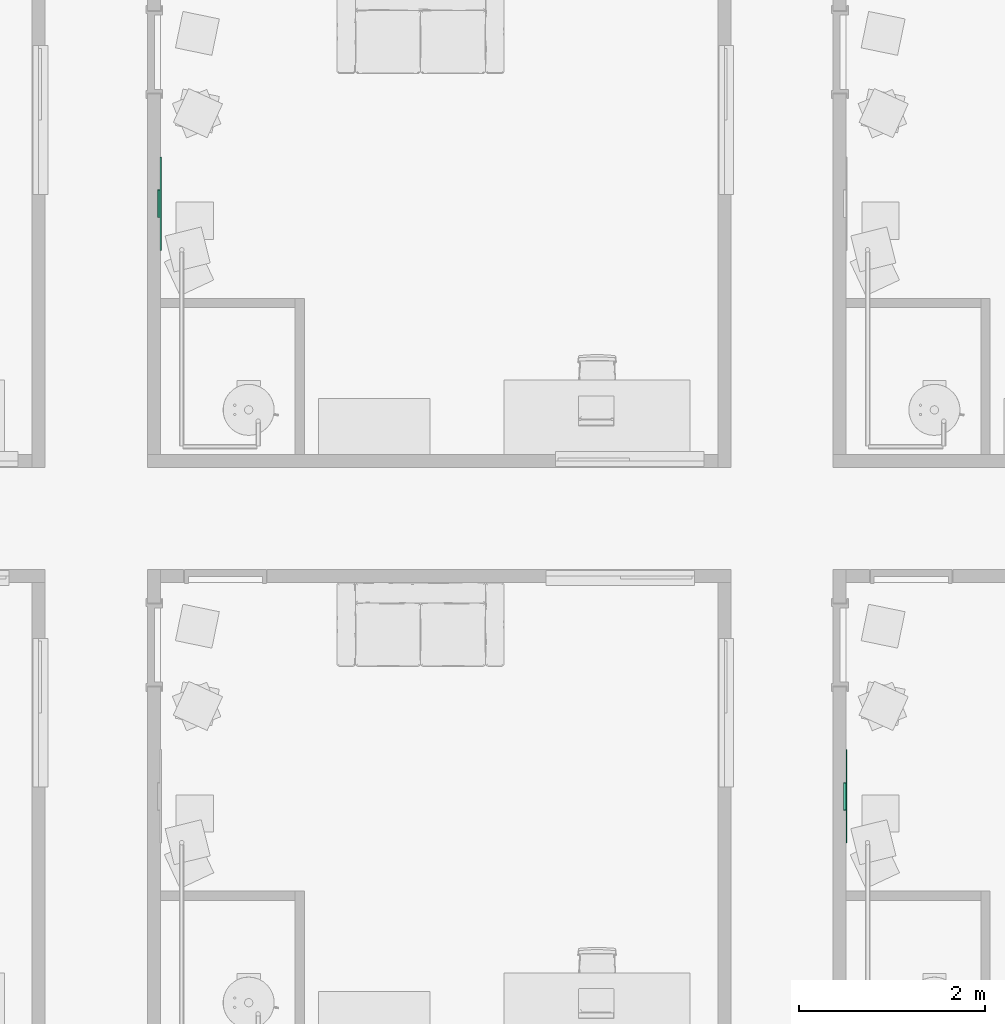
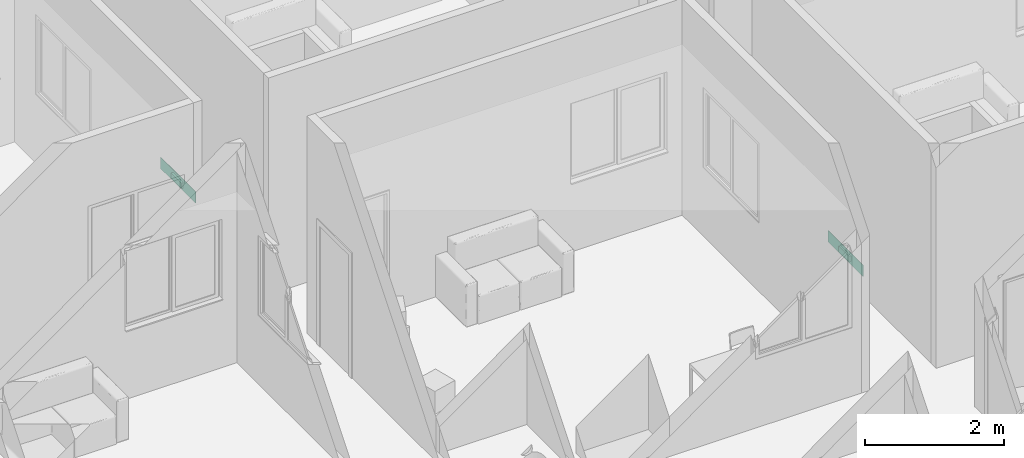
# One storey, part 35 of 71: 2 air terminals.
"""IFC4 building model written with IfcOpenShell, lengths in centimetres."""

from ifc_helpers import new_model, entity, si_unit, converted_unit, derived_unit, direction, frame, origin, place, context, subcontext, project, spatial, arc, indexed_curve, outline, extrude, source, transform, mapped, material, constituent, constituent_set, type_object, type_shapes, element, save


model = new_model("IFC4")

# Units and contexts
model_context = context("Model", 3, precision=0.001, world=origin(), true_north=direction((6.123233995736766e-17, 1.0)))
body_context = subcontext(model_context, "Body", "Model", "MODEL_VIEW")
ifc_project = project(units=[si_unit("LENGTHUNIT", "METRE", prefix="CENTI"), si_unit("AREAUNIT", "SQUARE_METRE"), si_unit("VOLUMEUNIT", "CUBIC_METRE"), derived_unit("THERMALTRANSMITTANCEUNIT", [(si_unit("MASSUNIT", "GRAM", prefix="KILO"), 1), (si_unit("THERMODYNAMICTEMPERATUREUNIT", "KELVIN"), -1), (si_unit("TIMEUNIT", "SECOND"), -3)]), converted_unit("PLANEANGLEUNIT", "DEGREE", entity("IfcPlaneAngleMeasure", 0.017453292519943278), si_unit("PLANEANGLEUNIT", "RADIAN"), dimensions=[0, 0, 0, 0, 0, 0, 0]), derived_unit("MASSDENSITYUNIT", [(si_unit("MASSUNIT", "GRAM", prefix="KILO"), 1), (si_unit("LENGTHUNIT", "METRE"), -3)]), derived_unit("VAPORPERMEABILITYUNIT", [(si_unit("LENGTHUNIT", "METRE"), -1), (si_unit("TIMEUNIT", "SECOND"), 1)]), derived_unit("USERDEFINED", [(si_unit("MASSUNIT", "GRAM", prefix="KILO"), 1), (si_unit("TIMEUNIT", "SECOND"), -3), (si_unit("LENGTHUNIT", "METRE"), 3), (si_unit("ELECTRICCURRENTUNIT", "AMPERE"), -2)]), derived_unit("SPECIFICHEATCAPACITYUNIT", [(si_unit("THERMODYNAMICTEMPERATUREUNIT", "KELVIN"), -1), (si_unit("LENGTHUNIT", "METRE"), 2), (si_unit("TIMEUNIT", "SECOND"), -2)]), derived_unit("THERMALCONDUCTANCEUNIT", [(si_unit("MASSUNIT", "GRAM", prefix="KILO"), 1), (si_unit("THERMODYNAMICTEMPERATUREUNIT", "KELVIN"), -1), (si_unit("TIMEUNIT", "SECOND"), -3), (si_unit("LENGTHUNIT", "METRE"), 1)]), si_unit("PRESSUREUNIT", "PASCAL"), derived_unit("MODULUSOFELASTICITYUNIT", [(si_unit("MASSUNIT", "GRAM", prefix="KILO"), 1), (si_unit("LENGTHUNIT", "METRE"), -1), (si_unit("TIMEUNIT", "SECOND"), -2)]), derived_unit("THERMALEXPANSIONCOEFFICIENTUNIT", [(si_unit("THERMODYNAMICTEMPERATUREUNIT", "KELVIN"), -1)])], contexts=[model_context])

# Site, building, storey, space
site_placement = place(None, origin())
site = spatial("IfcSite", under=ifc_project, at=site_placement, Name="Default", CompositionType="ELEMENT")
building_placement = place(site_placement, origin())
building = spatial("IfcBuilding", under=site, at=building_placement, Name="IDS Escape Game Building", CompositionType="ELEMENT")
storey_placement = place(building_placement, frame((0.0, 0.0, 400.0)))
storey = spatial("IfcBuildingStorey", under=building, at=storey_placement, Name="01_First Floor", CompositionType="ELEMENT", Elevation=399.99999999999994)
space_1_placement = place(storey_placement, origin())
space_1 = spatial("IfcSpace", under=storey, at=space_1_placement, Name="49", CompositionType="ELEMENT", PredefinedType="NOTDEFINED")

# Air terminal
ifc_material_1 = material(Name="TB_LVC_referentievlak_00_gen_BERSnl", Category="BE Default")
ifc_constituent_1 = constituent(ifc_material_1, Name="TB_LVC_referentievlak_00_gen_BERSnl", Category="BE Default", fraction=0.00014157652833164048)
ifc_material_2 = material(Name="ARC_FME.h2_staal_00_gen_BERSnl", Category="h - metaal")
ifc_constituent_2 = constituent(ifc_material_2, Name="ARC_FME.h2_staal_00_gen_BERSnl", Category="h - metaal", fraction=0.9998584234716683)
ifc_constituent_set_1 = constituent_set(constituents=[ifc_constituent_1, ifc_constituent_2])
ifc_constituent_3 = constituent(ifc_material_1, Name="BE Referentievlak", Category="BE Default", fraction=0.00014157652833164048)
ifc_constituent_4 = constituent(ifc_material_2, Name="Terminals", Category="h - metaal", fraction=0.9998584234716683)
ifc_constituent_set_2 = constituent_set(constituents=[ifc_constituent_3, ifc_constituent_4])
air_terminal_type = type_object("IfcAirTerminalType", Name="TB_57_AIR_FB_aanzuigrooster - 1 rechthoekige aansluiting - calculated flow_gen_BERSnl:Air Terminal - Exhaust", PredefinedType="GRILLE", material=ifc_constituent_set_2)
shared_shape = source(origin(), body_context, "Body", "SweptSolid", [
    extrude(outline(indexed_curve([(-0.5, -2.0290176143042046e-15), (6.8507733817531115e-16, -0.5000000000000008), (0.5, 2.0290176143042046e-15), (-5.361679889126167e-16, 0.49999999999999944)], segments=[arc(1, 2, 3), arc(3, 4, 1)], self_intersect=False)), frame((0.0, 0.0, 0.0), z_axis=(1.7453292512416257e-05, 0.0, 1.0), x_axis=(0.0, 1.0, 0.0)), (0.0, 0.0, 1.0), 0.09999999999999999),
    extrude(outline(indexed_curve([(-14.900000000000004, -4.9), (14.900000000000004, -4.9), (14.900000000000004, 4.9), (-14.900000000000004, 4.9), (-14.900000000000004, -4.9)], self_intersect=False)), frame((-4.886921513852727e-05, 0.0, -2.7999999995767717)), (0.0, 0.0, 1.0), 2.7999999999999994),
    extrude(outline(indexed_curve([(-50.0, -10.0), (50.0, -10.0), (50.0, 10.0), (-50.0, 10.0), (-50.0, -10.0)], self_intersect=False)), frame((0.0, 0.0, 0.0), z_axis=(0.0, 0.0, 1.0), x_axis=(-1.0, 0.0, 0.0)), (0.0, 0.0, 1.0), 0.6999999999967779),
])
type_shapes(air_terminal_type, [shared_shape])
air_terminal_1_placement = place(space_1_placement, frame((4435.0, 921.0, 24.0), z_axis=(1.0, 0.0, 0.0), x_axis=(0.0, 1.0, 0.0)))
element("IfcAirTerminal", 1, at=air_terminal_1_placement, inside=space_1, type_object=air_terminal_type, material=ifc_constituent_set_1, Name="TB_57_AIR_FB_aanzuigrooster - 1 rechthoekige aansluiting - calculated flow_gen_BERSnl:Air Terminal - Exhaust", ObjectType="TB_57_AIR_FB_aanzuigrooster - 1 rechthoekige aansluiting - calculated flow_gen_BERSnl:Air Terminal - Exhaust", PredefinedType="GRILLE", context=body_context, shape_type="MappedRepresentation", body=[
    mapped(shared_shape, transform((0.0, 0.0, 0.0), scale=1.0)),
])

# Space
space_2_placement = place(storey_placement, origin())
space_2 = spatial("IfcSpace", under=storey, at=space_2_placement, Name="55", CompositionType="ELEMENT", PredefinedType="NOTDEFINED")

# Air terminal
ifc_constituent_5 = constituent(ifc_material_1, Name="TB_LVC_referentievlak_00_gen_BERSnl", Category="BE Default", fraction=0.00014157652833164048)
ifc_constituent_6 = constituent(ifc_material_2, Name="ARC_FME.h2_staal_00_gen_BERSnl", Category="h - metaal", fraction=0.9998584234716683)
ifc_constituent_set_3 = constituent_set(constituents=[ifc_constituent_5, ifc_constituent_6])
air_terminal_2_placement = place(space_2_placement, frame((3697.0, 1559.0, 24.0), z_axis=(1.0, 0.0, 0.0), x_axis=(0.0, 1.0, 0.0)))
element("IfcAirTerminal", 2, at=air_terminal_2_placement, inside=space_2, type_object=air_terminal_type, material=ifc_constituent_set_3, Name="TB_57_AIR_FB_aanzuigrooster - 1 rechthoekige aansluiting - calculated flow_gen_BERSnl:Air Terminal - Exhaust", ObjectType="TB_57_AIR_FB_aanzuigrooster - 1 rechthoekige aansluiting - calculated flow_gen_BERSnl:Air Terminal - Exhaust", PredefinedType="GRILLE", context=body_context, shape_type="MappedRepresentation", body=[
    mapped(shared_shape, transform((0.0, 0.0, 0.0), scale=1.0)),
])

save(model, "model.ifc")
